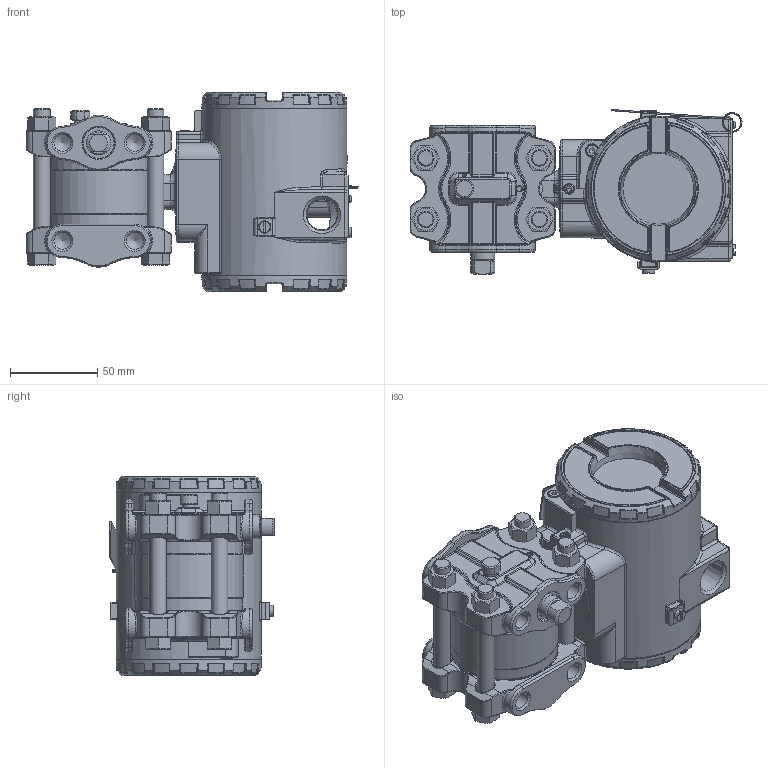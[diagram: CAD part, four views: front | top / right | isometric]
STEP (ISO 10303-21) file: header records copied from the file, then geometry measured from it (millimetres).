
FILE_DESCRIPTION(/* description */ (''),/* implementation_level */ '2;1');
FILE_NAME(/* name */ 'F:\Area\Desenvolvimento_2\Projects\Sensor\projetos\LD30X\montagens 3d - clientes\LD30XA4 1-4NPT purga abaixo.stp',/* time_stamp */ '2023-01-26T11:10:40-03:00',/* author */ ('inventor02'),/* organization */ (''),/* preprocessor_version */ 'ST-DEVELOPER v17',/* originating_system */ 'Autodesk Inventor 2019',/* authorisation */ '');
FILE_SCHEMA (('CONFIG_CONTROL_DESIGN'));
Length unit declared in the file: millimetre
Products named in the file (30): LD30XA4 1-4NPT purga abaixo; manometrico standard fx4 purga abaixo; Flange manometrico standard; flange diferencial std purga; bujao 1-4NPT; Sangria; involucro fx4 apos a usinagem final; Paraf. 3-8 x 16 UNC; Porca 3-8 x 16 UNC; carcaça vazia com tampas e plaqueta; carcaça LD inox sem letras; Subconjunto plaqueta 300; Plaqueta transmissor; Parafuso da Plaqueta; Rebite da Plaqueta; 096-A-0169-03; 101-A-0502-01; Chapa aterramento externo; ISO 1207 - M4 x 8; DIN 915 - M6 x 10; ANSI B18.3.1M - M4x0,7 x 8; Subconjunto tampa com visor aluminio; tampa pintada; VIDRO DO VISOR; oring 41x1 vidro tampa; Trava do vidro da tampa com visor; trava do vidro VH256; Subconjunto tampa sem visor-aluminio; tampa cega 300 pintada p0; 00034775-0
Assembly tree (37 placements, depth 4):
  LD30XA4 1-4NPT purga abaixo
    manometrico standard fx4 purga abaixo
      Flange manometrico standard
      flange diferencial std purga
      bujao 1-4NPT
      Sangria
      involucro fx4 apos a usinagem final
      Paraf. 3-8 x 16 UNC  x4
      Porca 3-8 x 16 UNC  x4
    carcaça vazia com tampas e plaqueta
      carcaça LD inox sem letras
      Subconjunto plaqueta 300
        Plaqueta transmissor
        Parafuso da Plaqueta
        Rebite da Plaqueta
        096-A-0169-03
        101-A-0502-01
      Chapa aterramento externo
      ISO 1207 - M4 x 8
      DIN 915 - M6 x 10
      ANSI B18.3.1M - M4x0,7 x 8  x2
      Subconjunto tampa com visor aluminio
        tampa pintada
        VIDRO DO VISOR
        oring 41x1 vidro tampa
        Trava do vidro da tampa com visor
        trava do vidro VH256
        00034775-0
      Subconjunto tampa sem visor-aluminio
        tampa cega 300 pintada p0
        00034775-0
Bounding box: 189.78 x 94.3 x 114 mm (x, y, z)
Volume: 570472.5 mm3; surface area: 227357.4 mm2
Topology: 32 solids, 32 shells, 2626 faces, 6301 edges, 3698 vertices
Faces by surface type: bspline 729, cylinder 609, plane 498, torus 448, cone 230, sphere 112
Full cylindrical faces by diameter (mm): 2 x3, 2.1 x2, 2.459 x5, 2.642 x1, 2.7 x1, 3 x3, 3.242 x4, 3.5 x4, 3.571 x1, 4 x4, 4.3 x1, 4.4 x1, 4.917 x1, 5.5 x3, 6 x2, 6.647 x1, 7 x5, 7.087 x2, 7.6 x2, 7.798 x4, 8 x1, 8.7 x2, 9.525 x4, 9.728 x8, 10.5 x8, 10.719 x2, 13.8 x1, 14 x1, 17.475 x2, 18.5 x2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
Entity records: 93541 total; most frequent: CARTESIAN_POINT 36302, ORIENTED_EDGE 12030, DIRECTION 11553, EDGE_CURVE 6015, AXIS2_PLACEMENT_3D 5089, VERTEX_POINT 3572, CIRCLE 2995, EDGE_LOOP 2637
